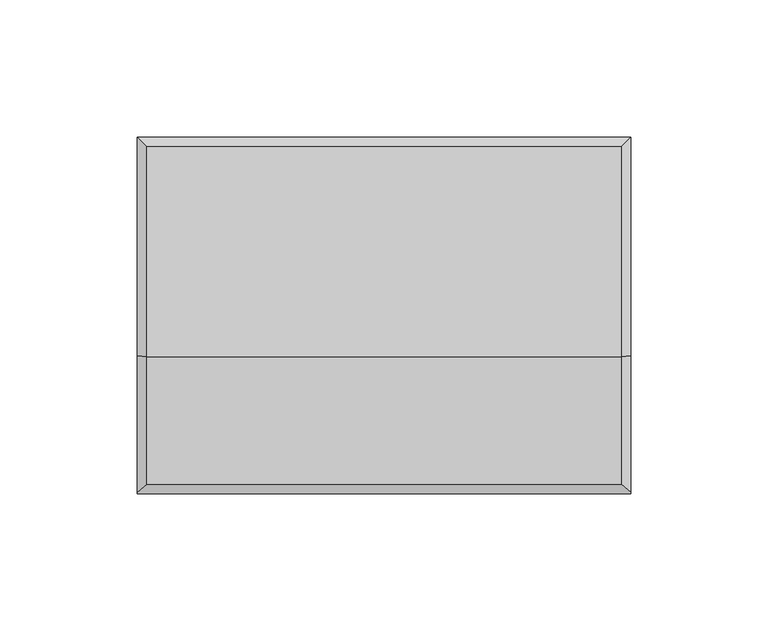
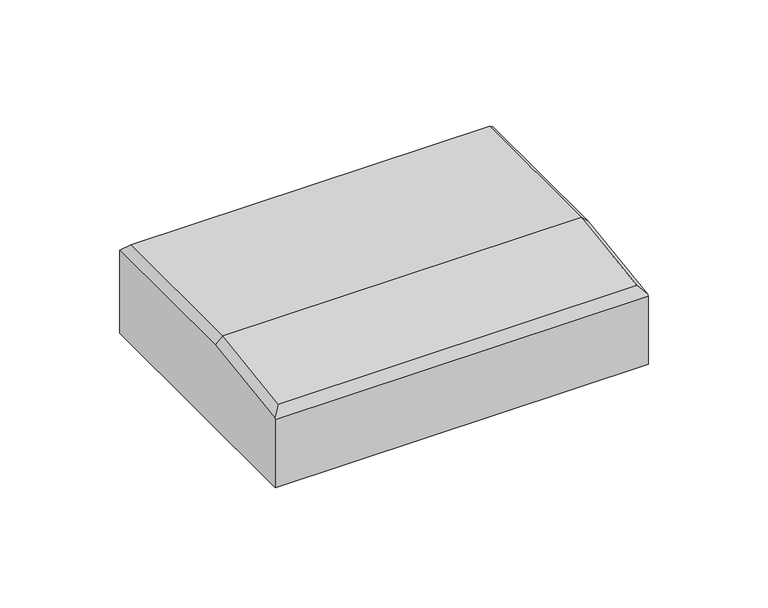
"""IFC4 building model written with IfcOpenShell, lengths in millimetres: proxy geometry, 400_5-_KOMF_optimizer : Optimizer."""

from ifc_helpers import new_model, si_unit, origin, place, context, project, spatial, faceted_brep, source, transform, mapped, element, save


def electrical_fixtures_0267594b(model_context):
    return source(origin(), model_context, "Body", "Brep", [
        faceted_brep([(180.0, 0.0, 0.0), (180.0, 130.0, 0.0), (180.0, 130.0, 42.5), (180.0, 50.2438111, 42.5), (180.0, 0.4852675, 35.5338039), (180.0, 0.0, 34.8905424), (0.0, 130.0, 0.0), (0.0, 0.0, 0.0), (0.0, 0.0, 34.8905424), (0.0, 0.4852675, 35.5338039), (0.0, 50.2438111, 42.5), (0.0, 130.0, 42.5), (3.5, 50.0, 46.0), (176.5, 50.0, 46.0), (176.5, 126.5, 46.0), (3.5, 126.5, 46.0), (3.5, 3.4661961, 39.4852675), (176.5, 3.4661961, 39.4852675)], [[[0, 1, 2, 3, 4, 5]], [[6, 7, 8, 9, 10, 11]], [[7, 0, 5, 8]], [[1, 0, 7, 6]], [[1, 6, 11, 2]], [[12, 13, 14, 15]], [[13, 12, 16, 17]], [[10, 12, 15, 11]], [[12, 10, 9, 16]], [[16, 9, 8, 5, 4, 17]], [[17, 4, 3, 13]], [[13, 3, 2, 14]], [[14, 2, 11, 15]]]),
    ])


if __name__ == "__main__":
    model = new_model("IFC4")
    model_context = context("Model", 3, world=origin())
    ifc_project = project(units=[si_unit("LENGTHUNIT", "METRE", prefix="MILLI")], contexts=[model_context])
    site = spatial("IfcSite", under=ifc_project)
    building = spatial("IfcBuilding", under=site)
    placement = place(None, origin())
    electrical_fixtures_shape = electrical_fixtures_0267594b(model_context)
    element("IfcBuildingElementProxy", 1, Name="400_5-_KOMF_optimizer : Optimizer", ObjectType="400_5-_KOMF_optimizer : Optimizer", at=placement, inside=building, context=model_context, shape_type="MappedRepresentation", body=[
        mapped(electrical_fixtures_shape, transform((0.0, 0.0, 0.0), x_axis=(1.0, 0.0, 0.0), y_axis=(0.0, 1.0, 0.0), z_axis=(0.0, 0.0, 1.0))),
    ])
    save(model, "model.ifc")
